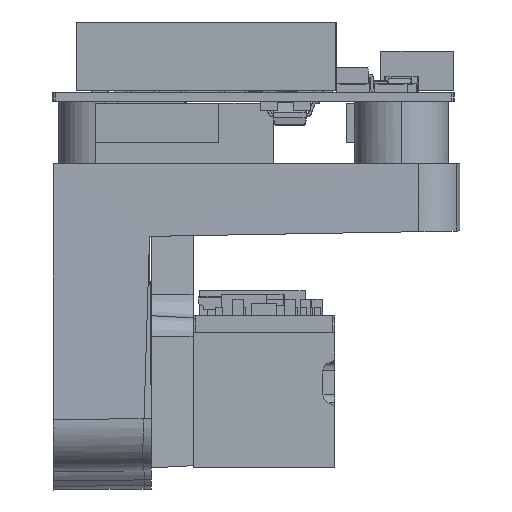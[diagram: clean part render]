
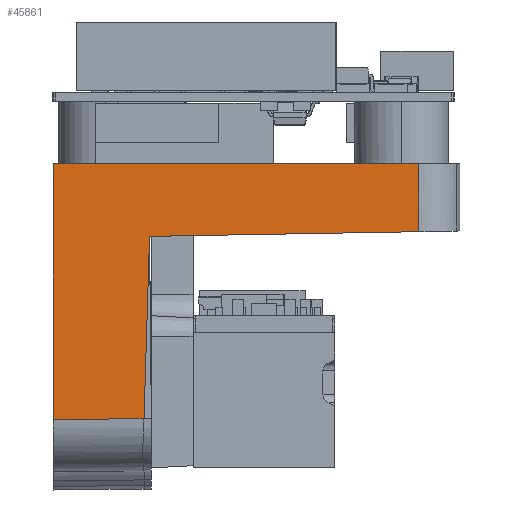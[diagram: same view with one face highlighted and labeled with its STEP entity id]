
A CAD part, left-side view. The second image highlights one B-rep face of the part: STEP entity #45861.
In plain terms, the highlighted planar face has unit normal (-1, -0.009, 0) as drawn and (-1, 0.009, 0) by its records, which use the part's own axes.
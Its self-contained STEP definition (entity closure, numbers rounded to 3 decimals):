
#43791=DIRECTION('',(-0.009,-1.,0.));
#43792=VECTOR('',#43791,17.498);
#43793=CARTESIAN_POINT('',(-19.097,7.998,-5.8));
#43794=LINE('',#43793,#43792);
#43918=DIRECTION('',(0.,0.,1.));
#43919=VECTOR('',#43918,12.271);
#43920=CARTESIAN_POINT('',(-19.25,-9.5,-5.8));
#43921=LINE('',#43920,#43919);
#44126=DIRECTION('',(-0.009,-1.,0.017));
#44127=VECTOR('',#44126,12.888);
#44128=CARTESIAN_POINT('',(-19.097,7.998,
-2.536));
#44129=LINE('',#44128,#44127);
#44130=DIRECTION('',(-0.009,-1.,0.009));
#44131=VECTOR('',#44130,4.35);
#44132=CARTESIAN_POINT('',(-19.212,-5.15,
6.433));
#44133=LINE('',#44132,#44131);
#44155=DIRECTION('',(0.,0.,-1.));
#44156=VECTOR('',#44155,3.264);
#44157=CARTESIAN_POINT('',(-19.097,7.998,
-2.536));
#44158=LINE('',#44157,#44156);
#44357=DIRECTION('',(0.,0.03,-1.));
#44358=VECTOR('',#44357,8.748);
#44359=CARTESIAN_POINT('',(-19.212,-5.15,
6.433));
#44360=LINE('',#44359,#44358);
#45187=CARTESIAN_POINT('',(-19.212,-4.888,
-2.311));
#45189=VERTEX_POINT('',#45187);
#45219=CARTESIAN_POINT('',(-19.25,-9.5,-5.8));
#45221=VERTEX_POINT('',#45219);
#45224=CARTESIAN_POINT('',(-19.097,7.998,-5.8));
#45225=VERTEX_POINT('',#45224);
#45300=CARTESIAN_POINT('',(-19.25,-9.5,6.471));
#45301=VERTEX_POINT('',#45300);
#45386=CARTESIAN_POINT('',(-19.097,7.998,
-2.536));
#45387=VERTEX_POINT('',#45386);
#45388=CARTESIAN_POINT('',(-19.212,-5.15,
6.433));
#45389=VERTEX_POINT('',#45388);
#45844=CARTESIAN_POINT('',(-19.25,-9.5,8.35));
#45845=DIRECTION('',(1.,-0.009,0.));
#45846=DIRECTION('',(0.,0.,1.));
#45847=AXIS2_PLACEMENT_3D('',#45844,#45845,#45846);
#45848=PLANE('',#45847);
#45850=ORIENTED_EDGE('',*,*,#45849,.T.);
#45852=ORIENTED_EDGE('',*,*,#45851,.F.);
#45854=ORIENTED_EDGE('',*,*,#45853,.T.);
#45855=ORIENTED_EDGE('',*,*,#45739,.F.);
#45856=ORIENTED_EDGE('',*,*,#45652,.F.);
#45858=ORIENTED_EDGE('',*,*,#45857,.F.);
#45859=EDGE_LOOP('',(#45850,#45852,#45854,#45855,#45856,#45858));
#45860=FACE_OUTER_BOUND('',#45859,.F.);
#45652=EDGE_CURVE('',#45225,#45221,#43794,.T.);
#45739=EDGE_CURVE('',#45221,#45301,#43921,.T.);
#45849=EDGE_CURVE('',#45387,#45189,#44129,.T.);
#45851=EDGE_CURVE('',#45389,#45189,#44360,.T.);
#45853=EDGE_CURVE('',#45389,#45301,#44133,.T.);
#45857=EDGE_CURVE('',#45387,#45225,#44158,.T.);
#45861=ADVANCED_FACE('',(#45860),#45848,.F.);
